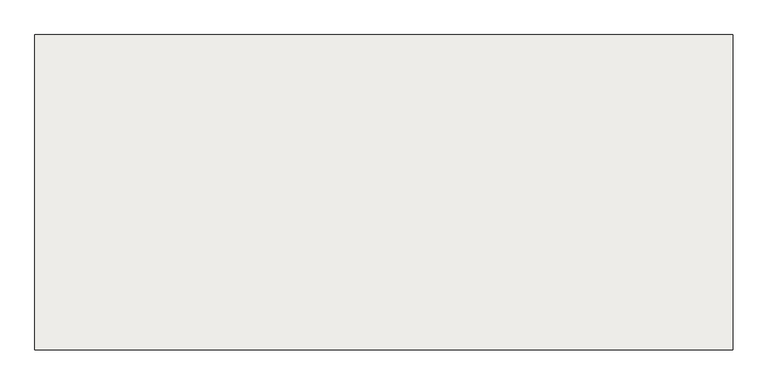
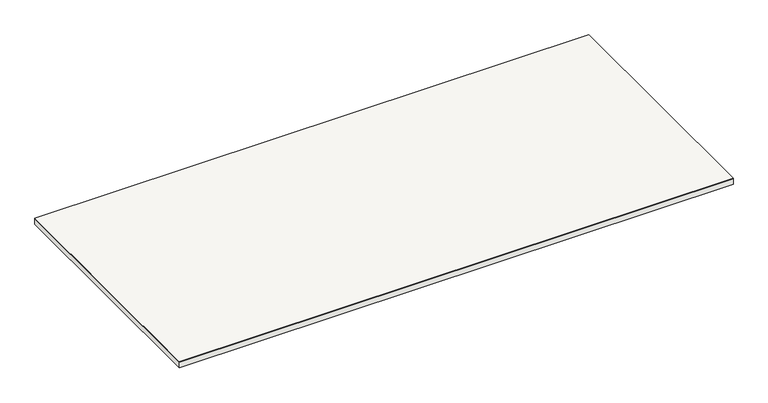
"""IFC4 building model written with IfcOpenShell, lengths in millimetres: slab geometry, Sol-02 - dalle béton 20cm + finition 1cm."""

from ifc_helpers import new_model, si_unit, frame, origin, origin_with_axes, place, context, project, spatial, polyline, outline, extrude, source, transform, mapped, element, save


def slab_dd62d7ef(model_context):
    return source(origin(), model_context, "Body", "SweptSolid", [
        extrude(outline(polyline([(32953.6319373, 0.0), (14523.8583652, 0.0), (14523.8583652, 8329.7846691), (32953.6319373, 8329.7846691), (32953.6319373, 0.0)])), frame((0.0, 0.0, 200.0), z_axis=(0.0, 0.0, 1.0), x_axis=(1.0, 0.0, 0.0)), (0.0, 0.0, 1.0), 10.0),
        extrude(outline(polyline([(14523.8583652, 0.0), (14523.8583652, 8329.7846691), (32953.6319373, 8329.7846691), (32953.6319373, 0.0), (14523.8583652, 0.0)])), origin_with_axes(), (0.0, 0.0, 1.0), 200.0),
    ])


if __name__ == "__main__":
    model = new_model("IFC4")
    model_context = context("Model", 3, world=origin())
    ifc_project = project(units=[si_unit("LENGTHUNIT", "METRE", prefix="MILLI")], contexts=[model_context])
    site = spatial("IfcSite", under=ifc_project)
    building = spatial("IfcBuilding", under=site)
    placement = place(None, origin())
    slab_shape = slab_dd62d7ef(model_context)
    element("IfcSlab", 1, ObjectType="Sol-02 - dalle béton 20cm + finition 1cm", at=placement, inside=building, context=model_context, shape_type="MappedRepresentation", body=[
        mapped(slab_shape, transform((0.0, 0.0, 0.0), x_axis=(1.0, 0.0, 0.0), y_axis=(0.0, 1.0, 0.0), z_axis=(0.0, 0.0, 1.0))),
    ])
    save(model, "model.ifc")
